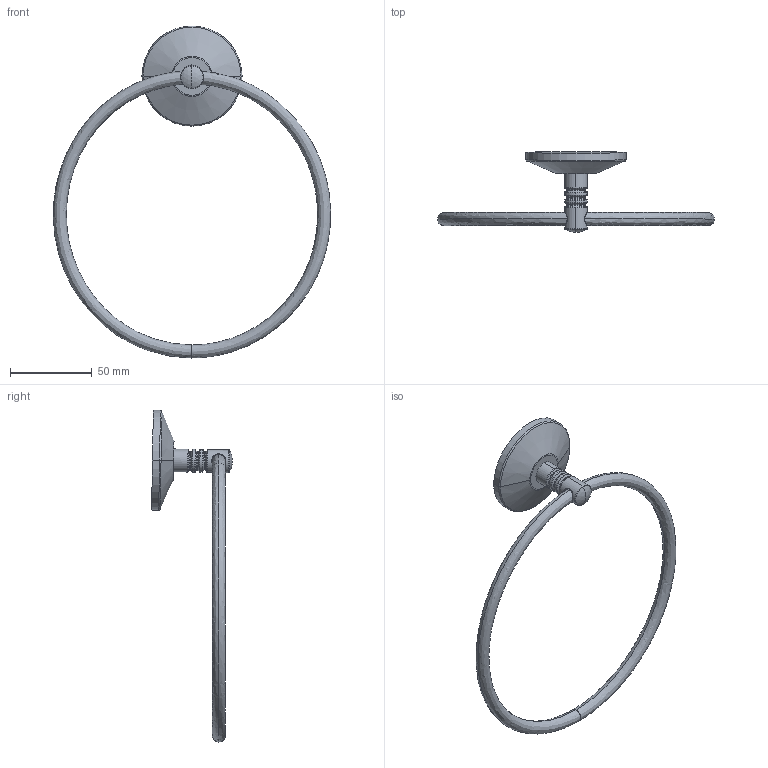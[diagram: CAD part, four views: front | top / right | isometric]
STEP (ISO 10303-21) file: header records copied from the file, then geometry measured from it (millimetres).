
FILE_DESCRIPTION (( 'STEP AP203' ), '1' );
FILE_NAME ('BJ11025.STEP', '2016-08-15T08:20:18', ( '' ), ( '' ), 'SwSTEP 2.0', 'SolidWorks 2016', '' );
FILE_SCHEMA (( 'CONFIG_CONTROL_DESIGN' ));
Length unit declared in the file: millimetre
Products named in the file (1): BJ11025
Bounding box: 169.9 x 49.53 x 203.49 mm (x, y, z)
Volume: 57343.6 mm3; surface area: 22235 mm2
Topology: 3 solids, 3 shells, 69 faces, 140 edges, 75 vertices
Faces by surface type: torus 30, cone 14, cylinder 12, bspline 8, plane 3, sphere 2
Entity records: 3569 total; most frequent: CARTESIAN_POINT 2061, DIRECTION 338, ORIENTED_EDGE 280, AXIS2_PLACEMENT_3D 156, EDGE_CURVE 140, CIRCLE 94, VERTEX_POINT 75, EDGE_LOOP 71
